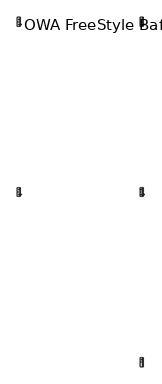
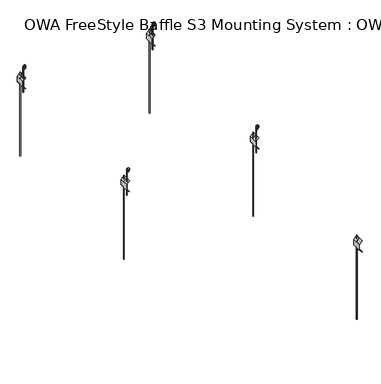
"""IFC4 building model written with IfcOpenShell, lengths in millimetres: proxy geometry, OWA FreeStyle Baffle S3 Mounting System : OWA FreeStyle Baffle S3 Mounting System."""

from ifc_helpers import new_model, si_unit, point, frame, frame_2d, origin, origin_with_axes, place, context, project, spatial, circle_curve, ellipse_curve, trimmed, segment, composite_curve, outline, extrude, faceted_brep, source, transform, mapped, element, save
from ifc_brep_helpers import plane_surface, cylinder_surface, revolved_surface, advanced_brep


def owa_freestyle_baffle_s3_mounting_system_owa_freestyle_baffle_da68aab5(model_context):
    return source(origin(), model_context, "Body", "SolidModel", [
        faceted_brep([(-119.638592, -2055.8333333, 417.5520255), (-120.3456988, -2055.8333333, 418.2591323), (-134.7807277, -2055.8333333, 403.8241035), (-134.7807277, -2055.8333333, 374.9956763), (-120.3456988, -2055.8333333, 360.5606475), (-119.638592, -2055.8333333, 361.2677543), (-133.7807277, -2055.8333333, 375.4098899), (-133.7807277, -2055.8333333, 403.4098899), (-119.638592, -2010.8333333, 417.5520255), (-133.7807277, -2010.8333333, 403.4098899), (-133.7807277, -2010.8333333, 375.4098899), (-119.638592, -2010.8333333, 361.2677543), (-120.3456988, -2010.8333333, 360.5606475), (-134.7807277, -2010.8333333, 374.9956763), (-134.7807277, -2010.8333333, 403.8241035), (-120.3456988, -2010.8333333, 418.2591323), (-119.638592, -2034.6333333, 417.5520255), (-120.3456988, -2034.6333333, 418.2591323), (-120.3456988, -2032.0333333, 418.2591323), (-119.638592, -2032.0333333, 417.5520255), (-134.7807277, -2034.6333333, 403.8241035), (-134.7807277, -2032.0333333, 403.8241035), (-134.7807277, -2032.0333333, 374.9956763), (-134.7807277, -2034.6333333, 374.9681948), (-120.3456988, -2034.6333333, 360.5606475), (-120.3456988, -2032.0333333, 360.5606475), (-119.638592, -2034.6333333, 361.2677543), (-119.638592, -2032.0333333, 361.2677543), (-133.7807277, -2034.6333333, 375.4098899), (-133.7807277, -2032.0333333, 375.4098899), (-133.7807277, -2032.0333333, 403.4098899), (-133.7807277, -2034.6333333, 403.4373715)], [[[0, 1, 2, 3, 4, 5, 6, 7]], [[8, 9, 10, 11, 12, 13, 14, 15]], [[1, 0, 16, 17]], [[8, 15, 18, 19]], [[2, 1, 17, 20]], [[15, 14, 21, 18]], [[3, 2, 20, 21, 14, 13, 22, 23]], [[4, 3, 23, 24]], [[13, 12, 25, 22]], [[5, 4, 24, 26]], [[12, 11, 27, 25]], [[6, 5, 26, 28]], [[11, 10, 29, 27]], [[7, 6, 28, 29, 10, 9, 30, 31]], [[0, 7, 31, 16]], [[9, 8, 19, 30]], [[29, 22, 25, 27]], [[21, 30, 19, 18]], [[23, 28, 26, 24]], [[31, 20, 17, 16]], [[22, 29, 28, 23]], [[30, 21, 20, 31]]]),
        extrude(outline(composite_curve([segment(trimmed(circle_curve(frame_2d((-126.5826228, -2020.8333333)), 1.5), [point((-126.5826228, -2019.3333333))], [point((-126.5826228, -2022.3333333))], False, "CARTESIAN"), True, "CONTINUOUS"), segment(trimmed(circle_curve(frame_2d((-126.5826228, -2020.8333333)), 1.5), [point((-126.5826228, -2022.3333333))], [point((-126.5826228, -2019.3333333))], False, "CARTESIAN"), True, "CONTINUOUS")], self_intersect=False)), origin_with_axes(), (0.0, 0.0, 1.0), 426.2503123),
        advanced_brep(
        [(-125.0826228, -2045.8333333, 339.3301206), (-128.0826228, -2045.8333333, 339.3301206), (-125.0826228, -2045.8333333, 469.8822039), (-128.0826228, -2045.8333333, 469.8822039), (-114.2638295, -2045.8333333, 469.8822039), (-117.2638295, -2045.8333333, 469.8822039), (-124.9635248, -2045.8333333, 454.4407062), (-122.7329392, -2045.8333333, 452.4345935), (-117.2638295, -2045.8333333, 466.7035654), (-114.2638295, -2045.8333333, 466.7035654), (-117.508527, -2045.8333333, 458.2435882), (-119.7391125, -2045.8333333, 460.249701)],
        [
            (0, 1, circle_curve(frame((-126.5826228, -2045.8333333, 339.3301206), z_axis=(0.0, 0.0, -1.0), x_axis=(-1.0, 0.0, 0.0)), 1.5)),
            (1, 0, circle_curve(frame((-126.5826228, -2045.8333333, 339.3301206), z_axis=(0.0, 0.0, -1.0), x_axis=(-1.0, 0.0, 0.0)), 1.5)),
            (0, 2),
            (2, 3, circle_curve(frame((-126.5826228, -2045.8333333, 469.8822039), z_axis=(0.0, 0.0, -1.0), x_axis=(-1.0, 0.0, 0.0)), 1.5)),
            (3, 1),
            (3, 2, circle_curve(frame((-126.5826228, -2045.8333333, 469.8822039), z_axis=(0.0, 0.0, -1.0), x_axis=(-1.0, 0.0, 0.0)), 1.5)),
            (4, 3, circle_curve(frame((-121.1732261, -2045.8333333, 469.8822039), z_axis=(0.0, -1.0, 0.0), x_axis=(-1.0, 0.0, 0.0)), 6.9093967)),
            (2, 5, circle_curve(frame((-121.1732261, -2045.8333333, 469.8822039), z_axis=(0.0, 1.0, 0.0), x_axis=(-1.0, 0.0, 0.0)), 3.9093967)),
            (5, 4, circle_curve(frame((-115.7638295, -2045.8333333, 469.8822039), z_axis=(0.0, 0.0, 1.0), x_axis=(1.0, 0.0, 0.0)), 1.5)),
            (4, 5, circle_curve(frame((-115.7638295, -2045.8333333, 469.8822039), z_axis=(0.0, 0.0, 1.0), x_axis=(1.0, 0.0, 0.0)), 1.5)),
            (6, 7, circle_curve(frame((-123.848232, -2045.8333333, 453.4376499), z_axis=(-0.6687042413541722, 0.0, -0.7435285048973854), x_axis=(0.7435285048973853, 0.0, -0.6687042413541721)), 1.5)),
            (7, 6, circle_curve(frame((-123.848232, -2045.8333333, 453.4376499), z_axis=(-0.6687042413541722, 0.0, -0.7435285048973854), x_axis=(0.7435285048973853, 0.0, -0.6687042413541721)), 1.5)),
            (5, 8),
            (8, 9, circle_curve(frame((-115.7638295, -2045.8333333, 466.7035654), z_axis=(0.0, 0.0, 1.0), x_axis=(1.0, 0.0, 0.0)), 1.5)),
            (9, 4),
            (9, 8, circle_curve(frame((-115.7638295, -2045.8333333, 466.7035654), z_axis=(0.0, 0.0, 1.0), x_axis=(1.0, 0.0, 0.0)), 1.5)),
            (10, 9, circle_curve(frame((-126.9151283, -2045.8333333, 466.7035654), z_axis=(0.0, -1.0, 0.0), x_axis=(1.0, 0.0, 0.0)), 12.6512988)),
            (8, 11, circle_curve(frame((-126.9151283, -2045.8333333, 466.7035654), z_axis=(0.0, 1.0, 0.0), x_axis=(1.0, 0.0, 0.0)), 9.6512988)),
            (11, 10, circle_curve(frame((-118.6238198, -2045.8333333, 459.2466446), z_axis=(0.6687042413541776, 0.0, 0.7435285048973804), x_axis=(0.7435285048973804, 0.0, -0.6687042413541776)), 1.5)),
            (10, 11, circle_curve(frame((-118.6238198, -2045.8333333, 459.2466446), z_axis=(0.6687042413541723, 0.0, 0.7435285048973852), x_axis=(0.7435285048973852, 0.0, -0.6687042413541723)), 1.5)),
            (11, 6),
            (7, 10),
        ],
        [
            plane_surface(frame((-126.5826228, -2045.8333333, 339.3301206), z_axis=(0.0, 0.0, -1.0), x_axis=(0.0, -1.0, 0.0))),
            cylinder_surface(frame((-126.5826228, -2045.8333333, 339.3301206), z_axis=(0.0, 0.0, -1.0), x_axis=(-1.0, 0.0, 0.0)), 1.5),
            revolved_surface(trimmed(ellipse_curve(frame((-126.5826228, -2045.8333333, 469.8822039), z_axis=(0.0, 0.0, -1.0), x_axis=(-1.0, 0.0, 0.0)), 1.5, 1.5), [point((-125.0826228, -2045.8333333, 469.8822039))], [point((-128.0826228, -2045.8333333, 469.8822039))], True, "CARTESIAN"), (-121.1732261, -2045.8333333, 469.8822039), (0.0, 1.0, 0.0)),
            revolved_surface(trimmed(ellipse_curve(frame((-126.5826228, -2045.8333333, 469.8822039), z_axis=(0.0, 0.0, -1.0), x_axis=(-1.0, 0.0, 0.0)), 1.5, 1.5), [point((-128.0826228, -2045.8333333, 469.8822039))], [point((-125.0826228, -2045.8333333, 469.8822039))], True, "CARTESIAN"), (-121.1732261, -2045.8333333, 469.8822039), (0.0, 1.0, 0.0)),
            plane_surface(frame((-123.848232, -2045.8333333, 453.4376499), z_axis=(-0.6687042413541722, 0.0, -0.7435285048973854), x_axis=(0.0, -1.0, 0.0))),
            cylinder_surface(frame((-115.7638295, -2045.8333333, 469.8822039), z_axis=(0.0, 0.0, 1.0), x_axis=(1.0, 0.0, 0.0)), 1.5),
            revolved_surface(trimmed(ellipse_curve(frame((-115.7638295, -2045.8333333, 466.7035654), z_axis=(0.0, 0.0, 1.0), x_axis=(1.0, 0.0, 0.0)), 1.5, 1.5), [point((-117.2638295, -2045.8333333, 466.7035654))], [point((-114.2638295, -2045.8333333, 466.7035654))], True, "CARTESIAN"), (-126.9151283, -2045.8333333, 466.7035654), (0.0, 1.0, 0.0)),
            revolved_surface(trimmed(ellipse_curve(frame((-115.7638295, -2045.8333333, 466.7035654), z_axis=(0.0, 0.0, 1.0), x_axis=(1.0, 0.0, 0.0)), 1.5, 1.5), [point((-114.2638295, -2045.8333333, 466.7035654))], [point((-117.2638295, -2045.8333333, 466.7035654))], True, "CARTESIAN"), (-126.9151283, -2045.8333333, 466.7035654), (0.0, 1.0, 0.0)),
            cylinder_surface(frame((-118.6238198, -2045.8333333, 459.2466446), z_axis=(0.6687042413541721, 0.0, 0.7435285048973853), x_axis=(0.7435285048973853, 0.0, -0.6687042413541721)), 1.5),
        ],
        [
            (0, [[1, 2]]),
            (1, [[-1, 3, 4, 5]]),
            (1, [[-2, -5, 6, -3]]),
            (2, [[7, -4, 8, 9]]),
            (3, [[-8, -6, -7, 10]]),
            (4, [[11, 12]]),
            (5, [[-9, 13, 14, 15]]),
            (5, [[-10, -15, 16, -13]]),
            (6, [[17, -14, 18, 19]]),
            (7, [[-18, -16, -17, 20]]),
            (8, [[-19, 21, -12, 22]]),
            (8, [[-20, -22, -11, -21]]),
        ],
    ),
        advanced_brep(
        [(-751.5162765, -2019.3333333, 426.2503123), (-751.5162765, -2022.3333333, 426.2503123), (-751.5162765, -2019.3333333, 0.0), (-751.5162765, -2022.3333333, 0.0), (-751.5162765, -2019.3333333, 412.0222083), (-751.5162765, -2022.3333333, 412.0222083), (-751.5162765, -2022.3333333, 366.7975715), (-751.5162765, -2019.3333333, 366.7975715), (-751.5162765, -2019.3333333, 410.6079948), (-751.5162765, -2019.3333333, 368.211785), (-751.5162765, -2022.3333333, 368.211785), (-751.5162765, -2022.3333333, 410.6079948), (-750.0162765, -2045.8333333, 339.3301206), (-753.0162765, -2045.8333333, 339.3301206), (-750.0162765, -2045.8333333, 365.2975715), (-753.0162765, -2045.8333333, 368.2975715), (-750.0162765, -2045.8333333, 469.8822039), (-753.0162765, -2045.8333333, 469.8822039), (-753.0162765, -2045.8333333, 410.5222083), (-750.0162765, -2045.8333333, 413.5222083), (-750.0162765, -2045.8333333, 366.711785), (-750.0162765, -2045.8333333, 412.1079948), (-753.0162765, -2045.8333333, 409.1079948), (-753.0162765, -2045.8333333, 369.711785), (-742.1974832, -2045.8333333, 469.8822039), (-739.1974832, -2045.8333333, 469.8822039), (-749.8971784, -2045.8333333, 454.4407062), (-747.6665929, -2045.8333333, 452.4345935), (-742.1974832, -2045.8333333, 466.7035654), (-739.1974832, -2045.8333333, 466.7035654), (-744.6727662, -2045.8333333, 460.249701), (-742.4421807, -2045.8333333, 458.2435882), (-744.5722457, -2055.8333333, 417.5520255), (-745.2793525, -2055.8333333, 418.2591323), (-759.7143814, -2055.8333333, 403.8241035), (-759.7143814, -2055.8333333, 374.9956763), (-745.2793525, -2055.8333333, 360.5606475), (-744.5722457, -2055.8333333, 361.2677543), (-758.7143814, -2055.8333333, 375.4098899), (-758.7143814, -2055.8333333, 403.4098899), (-744.5722457, -2010.8333333, 417.5520255), (-758.7143814, -2010.8333333, 403.4098899), (-758.7143814, -2010.8333333, 375.4098899), (-744.5722457, -2010.8333333, 361.2677543), (-745.2793525, -2010.8333333, 360.5606475), (-759.7143814, -2010.8333333, 374.9956763), (-759.7143814, -2010.8333333, 403.8241035), (-745.2793525, -2010.8333333, 418.2591323), (-744.5722457, -2034.6333333, 417.5520255), (-745.2793525, -2034.6333333, 418.2591323), (-745.2793525, -2032.0333333, 418.2591323), (-744.5722457, -2032.0333333, 417.5520255), (-759.7143814, -2034.6333333, 403.8241035), (-759.7143814, -2032.0333333, 403.8241035), (-759.7143814, -2032.0333333, 374.9956763), (-759.7143814, -2034.6333333, 374.9956763), (-745.2793525, -2034.6333333, 360.5606475), (-745.2793525, -2032.0333333, 360.5606475), (-744.5722457, -2034.6333333, 361.2677543), (-744.5722457, -2032.0333333, 361.2677543), (-758.7143814, -2034.6333333, 375.4098899), (-758.7143814, -2032.0333333, 375.4098899), (-758.7143814, -2032.0333333, 403.4098899), (-758.7143814, -2034.6333333, 403.4098899)],
        [
            (0, 1, circle_curve(frame((-751.5162765, -2020.8333333, 426.2503123), z_axis=(0.0, 0.0, 1.0), x_axis=(0.0, -1.0, 0.0)), 1.5)),
            (1, 0, circle_curve(frame((-751.5162765, -2020.8333333, 426.2503123), z_axis=(0.0, 0.0, 1.0), x_axis=(0.0, -1.0, 0.0)), 1.5)),
            (2, 3, circle_curve(frame((-751.5162765, -2020.8333333, 0.0), z_axis=(0.0, 0.0, -1.0), x_axis=(0.0, -1.0, 0.0)), 1.5)),
            (3, 2, circle_curve(frame((-751.5162765, -2020.8333333, 0.0), z_axis=(0.0, 0.0, -1.0), x_axis=(0.0, -1.0, 0.0)), 1.5)),
            (0, 4),
            (4, 5, ellipse_curve(frame((-751.5162765, -2020.8333333, 412.0222083), z_axis=(-0.7071067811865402, 0.0, 0.7071067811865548), x_axis=(0.7071067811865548, 0.0, 0.7071067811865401)), 2.1213203, 1.5)),
            (5, 1),
            (3, 6),
            (6, 7, ellipse_curve(frame((-751.5162765, -2020.8333333, 366.7975715), z_axis=(-0.7071067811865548, 0.0, -0.7071067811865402), x_axis=(-0.7071067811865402, 0.0, 0.7071067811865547)), 2.1213203, 1.5)),
            (7, 2),
            (8, 9),
            (9, 10, ellipse_curve(frame((-751.5162765, -2020.8333333, 368.211785), z_axis=(0.7071067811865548, 0.0, 0.7071067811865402), x_axis=(-0.7071067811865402, 0.0, 0.7071067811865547)), 2.1213203, 1.5)),
            (10, 11),
            (11, 8, ellipse_curve(frame((-751.5162765, -2020.8333333, 410.6079948), z_axis=(0.7071067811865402, 0.0, -0.7071067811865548), x_axis=(0.7071067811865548, 0.0, 0.7071067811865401)), 2.1213203, 1.5)),
            (5, 4, ellipse_curve(frame((-751.5162765, -2020.8333333, 412.0222083), z_axis=(-0.7071067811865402, 0.0, 0.7071067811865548), x_axis=(0.7071067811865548, 0.0, 0.7071067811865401)), 2.1213203, 1.5)),
            (7, 6, ellipse_curve(frame((-751.5162765, -2020.8333333, 366.7975715), z_axis=(-0.7071067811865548, 0.0, -0.7071067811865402), x_axis=(-0.7071067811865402, 0.0, 0.7071067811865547)), 2.1213203, 1.5)),
            (8, 11, ellipse_curve(frame((-751.5162765, -2020.8333333, 410.6079948), z_axis=(0.7071067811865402, 0.0, -0.7071067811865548), x_axis=(0.7071067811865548, 0.0, 0.7071067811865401)), 2.1213203, 1.5)),
            (10, 9, ellipse_curve(frame((-751.5162765, -2020.8333333, 368.211785), z_axis=(0.7071067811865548, 0.0, 0.7071067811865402), x_axis=(-0.7071067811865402, 0.0, 0.7071067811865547)), 2.1213203, 1.5)),
            (12, 13, circle_curve(frame((-751.5162765, -2045.8333333, 339.3301206), z_axis=(0.0, 0.0, -1.0), x_axis=(-1.0, 0.0, 0.0)), 1.5)),
            (13, 12, circle_curve(frame((-751.5162765, -2045.8333333, 339.3301206), z_axis=(0.0, 0.0, -1.0), x_axis=(-1.0, 0.0, 0.0)), 1.5)),
            (12, 14),
            (14, 15, ellipse_curve(frame((-751.5162765, -2045.8333333, 366.7975715), z_axis=(-0.7071067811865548, 0.0, -0.7071067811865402), x_axis=(0.7071067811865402, 0.0, -0.7071067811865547)), 2.1213203, 1.5)),
            (15, 13),
            (16, 17, circle_curve(frame((-751.5162765, -2045.8333333, 469.8822039), z_axis=(0.0, 0.0, -1.0), x_axis=(-1.0, 0.0, 0.0)), 1.5)),
            (17, 18),
            (18, 19, ellipse_curve(frame((-751.5162765, -2045.8333333, 412.0222083), z_axis=(-0.7071067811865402, 0.0, 0.7071067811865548), x_axis=(-0.7071067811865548, 0.0, -0.7071067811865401)), 2.1213203, 1.5)),
            (19, 16),
            (20, 21),
            (21, 22, ellipse_curve(frame((-751.5162765, -2045.8333333, 410.6079948), z_axis=(0.7071067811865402, 0.0, -0.7071067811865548), x_axis=(-0.7071067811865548, 0.0, -0.7071067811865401)), 2.1213203, 1.5)),
            (22, 23),
            (23, 20, ellipse_curve(frame((-751.5162765, -2045.8333333, 368.211785), z_axis=(0.7071067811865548, 0.0, 0.7071067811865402), x_axis=(0.7071067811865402, 0.0, -0.7071067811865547)), 2.1213203, 1.5)),
            (15, 14, ellipse_curve(frame((-751.5162765, -2045.8333333, 366.7975715), z_axis=(-0.7071067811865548, 0.0, -0.7071067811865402), x_axis=(0.7071067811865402, 0.0, -0.7071067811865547)), 2.1213203, 1.5)),
            (20, 23, ellipse_curve(frame((-751.5162765, -2045.8333333, 368.211785), z_axis=(0.7071067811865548, 0.0, 0.7071067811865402), x_axis=(0.7071067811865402, 0.0, -0.7071067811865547)), 2.1213203, 1.5)),
            (22, 21, ellipse_curve(frame((-751.5162765, -2045.8333333, 410.6079948), z_axis=(0.7071067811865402, 0.0, -0.7071067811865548), x_axis=(-0.7071067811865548, 0.0, -0.7071067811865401)), 2.1213203, 1.5)),
            (17, 16, circle_curve(frame((-751.5162765, -2045.8333333, 469.8822039), z_axis=(0.0, 0.0, -1.0), x_axis=(-1.0, 0.0, 0.0)), 1.5)),
            (19, 18, ellipse_curve(frame((-751.5162765, -2045.8333333, 412.0222083), z_axis=(-0.7071067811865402, 0.0, 0.7071067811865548), x_axis=(-0.7071067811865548, 0.0, -0.7071067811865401)), 2.1213203, 1.5)),
            (16, 24, circle_curve(frame((-746.1068798, -2045.8333333, 469.8822039), z_axis=(0.0, 1.0, 0.0), x_axis=(-1.0, 0.0, 0.0)), 3.9093967)),
            (24, 25, circle_curve(frame((-740.6974832, -2045.8333333, 469.8822039), z_axis=(0.0, 0.0, 1.0), x_axis=(1.0, 0.0, 0.0)), 1.5)),
            (25, 17, circle_curve(frame((-746.1068798, -2045.8333333, 469.8822039), z_axis=(0.0, -1.0, 0.0), x_axis=(-1.0, 0.0, 0.0)), 6.9093967)),
            (25, 24, circle_curve(frame((-740.6974832, -2045.8333333, 469.8822039), z_axis=(0.0, 0.0, 1.0), x_axis=(1.0, 0.0, 0.0)), 1.5)),
            (26, 27, circle_curve(frame((-748.7818857, -2045.8333333, 453.4376499), z_axis=(-0.6687042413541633, 0.0, -0.7435285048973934), x_axis=(0.7435285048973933, 0.0, -0.6687042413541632)), 1.5)),
            (27, 26, circle_curve(frame((-748.7818857, -2045.8333333, 453.4376499), z_axis=(-0.6687042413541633, 0.0, -0.7435285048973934), x_axis=(0.7435285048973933, 0.0, -0.6687042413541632)), 1.5)),
            (24, 28),
            (28, 29, circle_curve(frame((-740.6974832, -2045.8333333, 466.7035654), z_axis=(0.0, 0.0, 1.0), x_axis=(1.0, 0.0, 0.0)), 1.5)),
            (29, 25),
            (29, 28, circle_curve(frame((-740.6974832, -2045.8333333, 466.7035654), z_axis=(0.0, 0.0, 1.0), x_axis=(1.0, 0.0, 0.0)), 1.5)),
            (28, 30, circle_curve(frame((-751.8487819, -2045.8333333, 466.7035654), z_axis=(0.0, 1.0, 0.0), x_axis=(1.0, 0.0, 0.0)), 9.6512988)),
            (30, 31, circle_curve(frame((-743.5574734, -2045.8333333, 459.2466446), z_axis=(0.668704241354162, 0.0, 0.7435285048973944), x_axis=(0.7435285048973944, 0.0, -0.668704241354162)), 1.5)),
            (31, 29, circle_curve(frame((-751.8487819, -2045.8333333, 466.7035654), z_axis=(0.0, -1.0, 0.0), x_axis=(1.0, 0.0, 0.0)), 12.6512988)),
            (31, 30, circle_curve(frame((-743.5574734, -2045.8333333, 459.2466446), z_axis=(0.6687042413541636, 0.0, 0.743528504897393), x_axis=(0.743528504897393, 0.0, -0.6687042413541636)), 1.5)),
            (27, 31),
            (30, 26),
            (32, 33),
            (33, 34),
            (34, 35),
            (35, 36),
            (36, 37),
            (37, 38),
            (38, 39),
            (39, 32),
            (40, 41),
            (41, 42),
            (42, 43),
            (43, 44),
            (44, 45),
            (45, 46),
            (46, 47),
            (47, 40),
            (32, 48),
            (48, 49),
            (49, 33),
            (47, 50),
            (50, 51),
            (51, 40),
            (49, 52),
            (52, 34),
            (46, 53),
            (53, 50),
            (52, 53),
            (45, 54),
            (54, 55),
            (55, 35),
            (55, 56),
            (56, 36),
            (44, 57),
            (57, 54),
            (56, 58),
            (58, 37),
            (43, 59),
            (59, 57),
            (58, 60),
            (60, 38),
            (42, 61),
            (61, 59),
            (60, 61),
            (41, 62),
            (62, 63),
            (63, 39),
            (63, 48),
            (51, 62),
            (61, 54),
            (53, 62),
            (55, 60),
            (63, 52),
        ],
        [
            plane_surface(frame((-751.5162765, -2020.8333333, 426.2503123), z_axis=(0.0, 0.0, 1.0), x_axis=(0.0, -1.0, 0.0))),
            plane_surface(frame((-751.5162765, -2020.8333333, 0.0), z_axis=(0.0, 0.0, -1.0), x_axis=(0.0, -1.0, 0.0))),
            cylinder_surface(frame((-751.5162765, -2020.8333333, 426.2503123), z_axis=(0.0, 0.0, 1.0), x_axis=(0.0, -1.0, 0.0)), 1.5),
            plane_surface(frame((-751.5162765, -2045.8333333, 339.3301206), z_axis=(0.0, 0.0, -1.0), x_axis=(0.0, -1.0, 0.0))),
            cylinder_surface(frame((-751.5162765, -2045.8333333, 339.3301206), z_axis=(0.0, 0.0, -1.0), x_axis=(-1.0, 0.0, 0.0)), 1.5),
            revolved_surface(trimmed(ellipse_curve(frame((-751.5162765, -2045.8333333, 469.8822039), z_axis=(0.0, 0.0, -1.0), x_axis=(-1.0, 0.0, 0.0)), 1.5, 1.5), [point((-750.0162765, -2045.8333333, 469.8822039))], [point((-753.0162765, -2045.8333333, 469.8822039))], True, "CARTESIAN"), (-746.1068798, -2045.8333333, 469.8822039), (0.0, 1.0, 0.0)),
            revolved_surface(trimmed(ellipse_curve(frame((-751.5162765, -2045.8333333, 469.8822039), z_axis=(0.0, 0.0, -1.0), x_axis=(-1.0, 0.0, 0.0)), 1.5, 1.5), [point((-753.0162765, -2045.8333333, 469.8822039))], [point((-750.0162765, -2045.8333333, 469.8822039))], True, "CARTESIAN"), (-746.1068798, -2045.8333333, 469.8822039), (0.0, 1.0, 0.0)),
            plane_surface(frame((-748.7818857, -2045.8333333, 453.4376499), z_axis=(-0.6687042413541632, 0.0, -0.7435285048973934), x_axis=(0.0, -1.0, 0.0))),
            cylinder_surface(frame((-740.6974832, -2045.8333333, 469.8822039), z_axis=(0.0, 0.0, 1.0), x_axis=(1.0, 0.0, 0.0)), 1.5),
            revolved_surface(trimmed(ellipse_curve(frame((-740.6974832, -2045.8333333, 466.7035654), z_axis=(0.0, 0.0, 1.0), x_axis=(1.0, 0.0, 0.0)), 1.5, 1.5), [point((-742.1974832, -2045.8333333, 466.7035654))], [point((-739.1974832, -2045.8333333, 466.7035654))], True, "CARTESIAN"), (-751.8487819, -2045.8333333, 466.7035654), (0.0, 1.0, 0.0)),
            revolved_surface(trimmed(ellipse_curve(frame((-740.6974832, -2045.8333333, 466.7035654), z_axis=(0.0, 0.0, 1.0), x_axis=(1.0, 0.0, 0.0)), 1.5, 1.5), [point((-739.1974832, -2045.8333333, 466.7035654))], [point((-742.1974832, -2045.8333333, 466.7035654))], True, "CARTESIAN"), (-751.8487819, -2045.8333333, 466.7035654), (0.0, 1.0, 0.0)),
            cylinder_surface(frame((-743.5574734, -2045.8333333, 459.2466446), z_axis=(0.6687042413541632, 0.0, 0.7435285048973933), x_axis=(0.7435285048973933, 0.0, -0.6687042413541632)), 1.5),
            plane_surface(frame((-744.5722457, -2055.8333333, 361.2677543), z_axis=(0.0, -1.0, 0.0), x_axis=(0.0, 0.0, 1.0))),
            plane_surface(frame((-744.5722457, -2010.8333333, 361.2677543), z_axis=(0.0, 1.0, 0.0), x_axis=(0.0, 0.0, 1.0))),
            plane_surface(frame((-744.5722457, -2055.8333333, 417.5520255), z_axis=(0.707106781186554, 0.0, 0.7071067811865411), x_axis=(0.0, 1.0, 0.0))),
            plane_surface(frame((-745.2793525, -2055.8333333, 418.2591323), z_axis=(-0.7071067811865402, 0.0, 0.7071067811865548), x_axis=(0.0, 1.0, 0.0))),
            plane_surface(frame((-759.7143814, -2055.8333333, 403.8241035), z_axis=(-1.0, 0.0, 0.0), x_axis=(0.0, 1.0, 0.0))),
            plane_surface(frame((-759.7143814, -2055.8333333, 374.9956763), z_axis=(-0.7071067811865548, 0.0, -0.7071067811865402), x_axis=(0.0, 1.0, 0.0))),
            plane_surface(frame((-745.2793525, -2055.8333333, 360.5606475), z_axis=(0.7071067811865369, 0.0, -0.7071067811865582), x_axis=(0.0, 1.0, 0.0))),
            plane_surface(frame((-744.5722457, -2055.8333333, 361.2677543), z_axis=(0.7071067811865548, 0.0, 0.7071067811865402), x_axis=(0.0, 1.0, 0.0))),
            plane_surface(frame((-758.7143814, -2055.8333333, 375.4098899), z_axis=(1.0, 0.0, 0.0), x_axis=(0.0, 1.0, 0.0))),
            plane_surface(frame((-758.7143814, -2055.8333333, 403.4098899), z_axis=(0.7071067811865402, 0.0, -0.7071067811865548), x_axis=(0.0, 1.0, 0.0))),
            plane_surface(frame((-758.7143814, -2032.0333333, 375.4098899), z_axis=(0.0, -1.0000000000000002, 0.0), x_axis=(0.9238795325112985, 0.0, 0.3826834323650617))),
            plane_surface(frame((-758.7143814, -2034.6333333, 375.4098899), z_axis=(0.0, 1.0000000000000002, 0.0), x_axis=(-0.9238795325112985, 0.0, -0.3826834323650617))),
            plane_surface(frame((-759.7143814, -2032.0333333, 374.9956763), z_axis=(0.3826834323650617, 0.0, -0.9238795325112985), x_axis=(0.0, -1.0, 0.0))),
            plane_surface(frame((-758.7143814, -2032.0333333, 403.4098899), z_axis=(0.3826834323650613, 0.0, 0.9238795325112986), x_axis=(0.0, -1.0, 0.0))),
        ],
        [
            (0, [[1, 2]]),
            (1, [[3, 4]]),
            (2, [[-1, 5, 6, 7]]),
            (2, [[-4, 8, 9, 10]]),
            (2, [[11, 12, 13, 14]]),
            (2, [[-2, -7, 15, -5]]),
            (2, [[-3, -10, 16, -8]]),
            (2, [[-11, 17, -13, 18]]),
            (3, [[19, 20]]),
            (4, [[-19, 21, 22, 23]]),
            (4, [[24, 25, 26, 27]]),
            (4, [[28, 29, 30, 31]]),
            (4, [[-20, -23, 32, -21]]),
            (4, [[-28, 33, -30, 34]]),
            (4, [[35, -27, 36, -25]]),
            (5, [[-24, 37, 38, 39]]),
            (6, [[-35, -39, 40, -37]]),
            (7, [[41, 42]]),
            (8, [[-38, 43, 44, 45]]),
            (8, [[-40, -45, 46, -43]]),
            (9, [[-44, 47, 48, 49]]),
            (10, [[-46, -49, 50, -47]]),
            (11, [[-42, 51, -48, 52]]),
            (11, [[-41, -52, -50, -51]]),
            (12, [[53, 54, 55, 56, 57, 58, 59, 60]]),
            (13, [[61, 62, 63, 64, 65, 66, 67, 68]]),
            (14, [[-53, 69, 70, 71]]),
            (14, [[-68, 72, 73, 74]]),
            (15, [[-54, -71, 75, 76], [-26, -36]]),
            (15, [[-67, 77, 78, -72], [-6, -15]]),
            (16, [[-55, -76, 79, -77, -66, 80, 81, 82]]),
            (17, [[-56, -82, 83, 84], [-22, -32]]),
            (17, [[-65, 85, 86, -80], [-9, -16]]),
            (18, [[-57, -84, 87, 88]]),
            (18, [[-64, 89, 90, -85]]),
            (19, [[-58, -88, 91, 92], [-31, -33]]),
            (19, [[-63, 93, 94, -89], [-12, -18]]),
            (20, [[-59, -92, 95, -93, -62, 96, 97, 98]]),
            (21, [[-60, -98, 99, -69], [-29, -34]]),
            (21, [[-61, -74, 100, -96], [-14, -17]]),
            (22, [[101, -86, -90, -94]]),
            (22, [[102, -100, -73, -78]]),
            (23, [[103, -91, -87, -83]]),
            (23, [[104, -75, -70, -99]]),
            (24, [[-101, -95, -103, -81]]),
            (25, [[-102, -79, -104, -97]]),
        ],
    ),
        faceted_brep([(-119.638592, -1189.1666667, 417.5520255), (-120.3456988, -1189.1666667, 418.2591323), (-134.7807277, -1189.1666667, 403.8241035), (-134.7807277, -1189.1666667, 374.9956763), (-120.3456988, -1189.1666667, 360.5606475), (-119.638592, -1189.1666667, 361.2677543), (-133.7807277, -1189.1666667, 375.4098899), (-133.7807277, -1189.1666667, 403.4098899), (-119.638592, -1144.1666667, 417.5520255), (-133.7807277, -1144.1666667, 403.4098899), (-133.7807277, -1144.1666667, 375.4098899), (-119.638592, -1144.1666667, 361.2677543), (-120.3456988, -1144.1666667, 360.5606475), (-134.7807277, -1144.1666667, 374.9956763), (-134.7807277, -1144.1666667, 403.8241035), (-120.3456988, -1144.1666667, 418.2591323), (-119.638592, -1167.9666667, 417.5520255), (-120.3456988, -1167.9666667, 418.2591323), (-120.3456988, -1165.3666667, 418.2591323), (-119.638592, -1165.3666667, 417.5520255), (-134.7807277, -1167.9666667, 403.8241035), (-134.7807277, -1165.3666667, 403.8241035), (-134.7807277, -1165.3666667, 374.9956763), (-134.7807277, -1167.9666667, 374.9681948), (-120.3456988, -1167.9666667, 360.5606475), (-120.3456988, -1165.3666667, 360.5606475), (-119.638592, -1167.9666667, 361.2677543), (-119.638592, -1165.3666667, 361.2677543), (-133.7807277, -1167.9666667, 375.4098899), (-133.7807277, -1165.3666667, 375.4098899), (-133.7807277, -1165.3666667, 403.4098899), (-133.7807277, -1167.9666667, 403.4373715)], [[[0, 1, 2, 3, 4, 5, 6, 7]], [[8, 9, 10, 11, 12, 13, 14, 15]], [[1, 0, 16, 17]], [[8, 15, 18, 19]], [[2, 1, 17, 20]], [[15, 14, 21, 18]], [[3, 2, 20, 21, 14, 13, 22, 23]], [[4, 3, 23, 24]], [[13, 12, 25, 22]], [[5, 4, 24, 26]], [[12, 11, 27, 25]], [[6, 5, 26, 28]], [[11, 10, 29, 27]], [[7, 6, 28, 29, 10, 9, 30, 31]], [[0, 7, 31, 16]], [[9, 8, 19, 30]], [[29, 22, 25, 27]], [[21, 30, 19, 18]], [[23, 28, 26, 24]], [[31, 20, 17, 16]], [[22, 29, 28, 23]], [[30, 21, 20, 31]]]),
        extrude(outline(composite_curve([segment(trimmed(circle_curve(frame_2d((-126.5826228, -1154.1666667)), 1.5), [point((-126.5826228, -1152.6666667))], [point((-126.5826228, -1155.6666667))], False, "CARTESIAN"), True, "CONTINUOUS"), segment(trimmed(circle_curve(frame_2d((-126.5826228, -1154.1666667)), 1.5), [point((-126.5826228, -1155.6666667))], [point((-126.5826228, -1152.6666667))], False, "CARTESIAN"), True, "CONTINUOUS")], self_intersect=False)), origin_with_axes(), (0.0, 0.0, 1.0), 426.2503123),
        advanced_brep(
        [(-125.0826228, -1179.1666667, 339.3301206), (-128.0826228, -1179.1666667, 339.3301206), (-125.0826228, -1179.1666667, 469.8822039), (-128.0826228, -1179.1666667, 469.8822039), (-114.2638295, -1179.1666667, 469.8822039), (-117.2638295, -1179.1666667, 469.8822039), (-124.9635248, -1179.1666667, 454.4407062), (-122.7329392, -1179.1666667, 452.4345935), (-117.2638295, -1179.1666667, 466.7035654), (-114.2638295, -1179.1666667, 466.7035654), (-117.508527, -1179.1666667, 458.2435882), (-119.7391125, -1179.1666667, 460.249701)],
        [
            (0, 1, circle_curve(frame((-126.5826228, -1179.1666667, 339.3301206), z_axis=(0.0, 0.0, -1.0), x_axis=(-1.0, 0.0, 0.0)), 1.5)),
            (1, 0, circle_curve(frame((-126.5826228, -1179.1666667, 339.3301206), z_axis=(0.0, 0.0, -1.0), x_axis=(-1.0, 0.0, 0.0)), 1.5)),
            (0, 2),
            (2, 3, circle_curve(frame((-126.5826228, -1179.1666667, 469.8822039), z_axis=(0.0, 0.0, -1.0), x_axis=(-1.0, 0.0, 0.0)), 1.5)),
            (3, 1),
            (3, 2, circle_curve(frame((-126.5826228, -1179.1666667, 469.8822039), z_axis=(0.0, 0.0, -1.0), x_axis=(-1.0, 0.0, 0.0)), 1.5)),
            (4, 3, circle_curve(frame((-121.1732261, -1179.1666667, 469.8822039), z_axis=(0.0, -1.0, 0.0), x_axis=(-1.0, 0.0, 0.0)), 6.9093967)),
            (2, 5, circle_curve(frame((-121.1732261, -1179.1666667, 469.8822039), z_axis=(0.0, 1.0, 0.0), x_axis=(-1.0, 0.0, 0.0)), 3.9093967)),
            (5, 4, circle_curve(frame((-115.7638295, -1179.1666667, 469.8822039), z_axis=(0.0, 0.0, 1.0), x_axis=(1.0, 0.0, 0.0)), 1.5)),
            (4, 5, circle_curve(frame((-115.7638295, -1179.1666667, 469.8822039), z_axis=(0.0, 0.0, 1.0), x_axis=(1.0, 0.0, 0.0)), 1.5)),
            (6, 7, circle_curve(frame((-123.848232, -1179.1666667, 453.4376499), z_axis=(-0.6687042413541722, 0.0, -0.7435285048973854), x_axis=(0.7435285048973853, 0.0, -0.6687042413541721)), 1.5)),
            (7, 6, circle_curve(frame((-123.848232, -1179.1666667, 453.4376499), z_axis=(-0.6687042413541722, 0.0, -0.7435285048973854), x_axis=(0.7435285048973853, 0.0, -0.6687042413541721)), 1.5)),
            (5, 8),
            (8, 9, circle_curve(frame((-115.7638295, -1179.1666667, 466.7035654), z_axis=(0.0, 0.0, 1.0), x_axis=(1.0, 0.0, 0.0)), 1.5)),
            (9, 4),
            (9, 8, circle_curve(frame((-115.7638295, -1179.1666667, 466.7035654), z_axis=(0.0, 0.0, 1.0), x_axis=(1.0, 0.0, 0.0)), 1.5)),
            (10, 9, circle_curve(frame((-126.9151283, -1179.1666667, 466.7035654), z_axis=(0.0, -1.0, 0.0), x_axis=(1.0, 0.0, 0.0)), 12.6512988)),
            (8, 11, circle_curve(frame((-126.9151283, -1179.1666667, 466.7035654), z_axis=(0.0, 1.0, 0.0), x_axis=(1.0, 0.0, 0.0)), 9.6512988)),
            (11, 10, circle_curve(frame((-118.6238198, -1179.1666667, 459.2466446), z_axis=(0.6687042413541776, 0.0, 0.7435285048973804), x_axis=(0.7435285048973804, 0.0, -0.6687042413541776)), 1.5)),
            (10, 11, circle_curve(frame((-118.6238198, -1179.1666667, 459.2466446), z_axis=(0.6687042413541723, 0.0, 0.7435285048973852), x_axis=(0.7435285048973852, 0.0, -0.6687042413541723)), 1.5)),
            (11, 6),
            (7, 10),
        ],
        [
            plane_surface(frame((-126.5826228, -1179.1666667, 339.3301206), z_axis=(0.0, 0.0, -1.0), x_axis=(0.0, -1.0, 0.0))),
            cylinder_surface(frame((-126.5826228, -1179.1666667, 339.3301206), z_axis=(0.0, 0.0, -1.0), x_axis=(-1.0, 0.0, 0.0)), 1.5),
            revolved_surface(trimmed(ellipse_curve(frame((-126.5826228, -1179.1666667, 469.8822039), z_axis=(0.0, 0.0, -1.0), x_axis=(-1.0, 0.0, 0.0)), 1.5, 1.5), [point((-125.0826228, -1179.1666667, 469.8822039))], [point((-128.0826228, -1179.1666667, 469.8822039))], True, "CARTESIAN"), (-121.1732261, -1179.1666667, 469.8822039), (0.0, 1.0, 0.0)),
            revolved_surface(trimmed(ellipse_curve(frame((-126.5826228, -1179.1666667, 469.8822039), z_axis=(0.0, 0.0, -1.0), x_axis=(-1.0, 0.0, 0.0)), 1.5, 1.5), [point((-128.0826228, -1179.1666667, 469.8822039))], [point((-125.0826228, -1179.1666667, 469.8822039))], True, "CARTESIAN"), (-121.1732261, -1179.1666667, 469.8822039), (0.0, 1.0, 0.0)),
            plane_surface(frame((-123.848232, -1179.1666667, 453.4376499), z_axis=(-0.6687042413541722, 0.0, -0.7435285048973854), x_axis=(0.0, -1.0, 0.0))),
            cylinder_surface(frame((-115.7638295, -1179.1666667, 469.8822039), z_axis=(0.0, 0.0, 1.0), x_axis=(1.0, 0.0, 0.0)), 1.5),
            revolved_surface(trimmed(ellipse_curve(frame((-115.7638295, -1179.1666667, 466.7035654), z_axis=(0.0, 0.0, 1.0), x_axis=(1.0, 0.0, 0.0)), 1.5, 1.5), [point((-117.2638295, -1179.1666667, 466.7035654))], [point((-114.2638295, -1179.1666667, 466.7035654))], True, "CARTESIAN"), (-126.9151283, -1179.1666667, 466.7035654), (0.0, 1.0, 0.0)),
            revolved_surface(trimmed(ellipse_curve(frame((-115.7638295, -1179.1666667, 466.7035654), z_axis=(0.0, 0.0, 1.0), x_axis=(1.0, 0.0, 0.0)), 1.5, 1.5), [point((-114.2638295, -1179.1666667, 466.7035654))], [point((-117.2638295, -1179.1666667, 466.7035654))], True, "CARTESIAN"), (-126.9151283, -1179.1666667, 466.7035654), (0.0, 1.0, 0.0)),
            cylinder_surface(frame((-118.6238198, -1179.1666667, 459.2466446), z_axis=(0.6687042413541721, 0.0, 0.7435285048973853), x_axis=(0.7435285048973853, 0.0, -0.6687042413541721)), 1.5),
        ],
        [
            (0, [[1, 2]]),
            (1, [[-1, 3, 4, 5]]),
            (1, [[-2, -5, 6, -3]]),
            (2, [[7, -4, 8, 9]]),
            (3, [[-8, -6, -7, 10]]),
            (4, [[11, 12]]),
            (5, [[-9, 13, 14, 15]]),
            (5, [[-10, -15, 16, -13]]),
            (6, [[17, -14, 18, 19]]),
            (7, [[-18, -16, -17, 20]]),
            (8, [[-19, 21, -12, 22]]),
            (8, [[-20, -22, -11, -21]]),
        ],
    ),
        advanced_brep(
        [(-751.5162765, -1152.6666667, 426.2503123), (-751.5162765, -1155.6666667, 426.2503123), (-751.5162765, -1152.6666667, 0.0), (-751.5162765, -1155.6666667, 0.0), (-751.5162765, -1152.6666667, 412.0222083), (-751.5162765, -1155.6666667, 412.0222083), (-751.5162765, -1155.6666667, 366.7975715), (-751.5162765, -1152.6666667, 366.7975715), (-751.5162765, -1152.6666667, 410.6079948), (-751.5162765, -1152.6666667, 368.211785), (-751.5162765, -1155.6666667, 368.211785), (-751.5162765, -1155.6666667, 410.6079948), (-750.0162765, -1179.1666667, 339.3301206), (-753.0162765, -1179.1666667, 339.3301206), (-750.0162765, -1179.1666667, 365.2975715), (-753.0162765, -1179.1666667, 368.2975715), (-750.0162765, -1179.1666667, 469.8822039), (-753.0162765, -1179.1666667, 469.8822039), (-753.0162765, -1179.1666667, 410.5222083), (-750.0162765, -1179.1666667, 413.5222083), (-750.0162765, -1179.1666667, 366.711785), (-750.0162765, -1179.1666667, 412.1079948), (-753.0162765, -1179.1666667, 409.1079948), (-753.0162765, -1179.1666667, 369.711785), (-742.1974832, -1179.1666667, 469.8822039), (-739.1974832, -1179.1666667, 469.8822039), (-749.8971784, -1179.1666667, 454.4407062), (-747.6665929, -1179.1666667, 452.4345935), (-742.1974832, -1179.1666667, 466.7035654), (-739.1974832, -1179.1666667, 466.7035654), (-744.6727662, -1179.1666667, 460.249701), (-742.4421807, -1179.1666667, 458.2435882), (-744.5722457, -1189.1666667, 417.5520255), (-745.2793525, -1189.1666667, 418.2591323), (-759.7143814, -1189.1666667, 403.8241035), (-759.7143814, -1189.1666667, 374.9956763), (-745.2793525, -1189.1666667, 360.5606475), (-744.5722457, -1189.1666667, 361.2677543), (-758.7143814, -1189.1666667, 375.4098899), (-758.7143814, -1189.1666667, 403.4098899), (-744.5722457, -1144.1666667, 417.5520255), (-758.7143814, -1144.1666667, 403.4098899), (-758.7143814, -1144.1666667, 375.4098899), (-744.5722457, -1144.1666667, 361.2677543), (-745.2793525, -1144.1666667, 360.5606475), (-759.7143814, -1144.1666667, 374.9956763), (-759.7143814, -1144.1666667, 403.8241035), (-745.2793525, -1144.1666667, 418.2591323), (-744.5722457, -1167.9666667, 417.5520255), (-745.2793525, -1167.9666667, 418.2591323), (-745.2793525, -1165.3666667, 418.2591323), (-744.5722457, -1165.3666667, 417.5520255), (-759.7143814, -1167.9666667, 403.8241035), (-759.7143814, -1165.3666667, 403.8241035), (-759.7143814, -1165.3666667, 374.9956763), (-759.7143814, -1167.9666667, 374.9956763), (-745.2793525, -1167.9666667, 360.5606475), (-745.2793525, -1165.3666667, 360.5606475), (-744.5722457, -1167.9666667, 361.2677543), (-744.5722457, -1165.3666667, 361.2677543), (-758.7143814, -1167.9666667, 375.4098899), (-758.7143814, -1165.3666667, 375.4098899), (-758.7143814, -1165.3666667, 403.4098899), (-758.7143814, -1167.9666667, 403.4098899)],
        [
            (0, 1, circle_curve(frame((-751.5162765, -1154.1666667, 426.2503123), z_axis=(0.0, 0.0, 1.0), x_axis=(0.0, -1.0, 0.0)), 1.5)),
            (1, 0, circle_curve(frame((-751.5162765, -1154.1666667, 426.2503123), z_axis=(0.0, 0.0, 1.0), x_axis=(0.0, -1.0, 0.0)), 1.5)),
            (2, 3, circle_curve(frame((-751.5162765, -1154.1666667, 0.0), z_axis=(0.0, 0.0, -1.0), x_axis=(0.0, -1.0, 0.0)), 1.5)),
            (3, 2, circle_curve(frame((-751.5162765, -1154.1666667, 0.0), z_axis=(0.0, 0.0, -1.0), x_axis=(0.0, -1.0, 0.0)), 1.5)),
            (0, 4),
            (4, 5, ellipse_curve(frame((-751.5162765, -1154.1666667, 412.0222083), z_axis=(-0.7071067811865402, 0.0, 0.7071067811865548), x_axis=(0.7071067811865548, 0.0, 0.7071067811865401)), 2.1213203, 1.5)),
            (5, 1),
            (3, 6),
            (6, 7, ellipse_curve(frame((-751.5162765, -1154.1666667, 366.7975715), z_axis=(-0.7071067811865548, 0.0, -0.7071067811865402), x_axis=(-0.7071067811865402, 0.0, 0.7071067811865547)), 2.1213203, 1.5)),
            (7, 2),
            (8, 9),
            (9, 10, ellipse_curve(frame((-751.5162765, -1154.1666667, 368.211785), z_axis=(0.7071067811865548, 0.0, 0.7071067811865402), x_axis=(-0.7071067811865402, 0.0, 0.7071067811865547)), 2.1213203, 1.5)),
            (10, 11),
            (11, 8, ellipse_curve(frame((-751.5162765, -1154.1666667, 410.6079948), z_axis=(0.7071067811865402, 0.0, -0.7071067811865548), x_axis=(0.7071067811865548, 0.0, 0.7071067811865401)), 2.1213203, 1.5)),
            (5, 4, ellipse_curve(frame((-751.5162765, -1154.1666667, 412.0222083), z_axis=(-0.7071067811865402, 0.0, 0.7071067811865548), x_axis=(0.7071067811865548, 0.0, 0.7071067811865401)), 2.1213203, 1.5)),
            (7, 6, ellipse_curve(frame((-751.5162765, -1154.1666667, 366.7975715), z_axis=(-0.7071067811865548, 0.0, -0.7071067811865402), x_axis=(-0.7071067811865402, 0.0, 0.7071067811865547)), 2.1213203, 1.5)),
            (8, 11, ellipse_curve(frame((-751.5162765, -1154.1666667, 410.6079948), z_axis=(0.7071067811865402, 0.0, -0.7071067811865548), x_axis=(0.7071067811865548, 0.0, 0.7071067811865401)), 2.1213203, 1.5)),
            (10, 9, ellipse_curve(frame((-751.5162765, -1154.1666667, 368.211785), z_axis=(0.7071067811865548, 0.0, 0.7071067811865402), x_axis=(-0.7071067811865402, 0.0, 0.7071067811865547)), 2.1213203, 1.5)),
            (12, 13, circle_curve(frame((-751.5162765, -1179.1666667, 339.3301206), z_axis=(0.0, 0.0, -1.0), x_axis=(-1.0, 0.0, 0.0)), 1.5)),
            (13, 12, circle_curve(frame((-751.5162765, -1179.1666667, 339.3301206), z_axis=(0.0, 0.0, -1.0), x_axis=(-1.0, 0.0, 0.0)), 1.5)),
            (12, 14),
            (14, 15, ellipse_curve(frame((-751.5162765, -1179.1666667, 366.7975715), z_axis=(-0.7071067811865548, 0.0, -0.7071067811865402), x_axis=(0.7071067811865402, 0.0, -0.7071067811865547)), 2.1213203, 1.5)),
            (15, 13),
            (16, 17, circle_curve(frame((-751.5162765, -1179.1666667, 469.8822039), z_axis=(0.0, 0.0, -1.0), x_axis=(-1.0, 0.0, 0.0)), 1.5)),
            (17, 18),
            (18, 19, ellipse_curve(frame((-751.5162765, -1179.1666667, 412.0222083), z_axis=(-0.7071067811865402, 0.0, 0.7071067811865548), x_axis=(-0.7071067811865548, 0.0, -0.7071067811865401)), 2.1213203, 1.5)),
            (19, 16),
            (20, 21),
            (21, 22, ellipse_curve(frame((-751.5162765, -1179.1666667, 410.6079948), z_axis=(0.7071067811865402, 0.0, -0.7071067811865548), x_axis=(-0.7071067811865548, 0.0, -0.7071067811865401)), 2.1213203, 1.5)),
            (22, 23),
            (23, 20, ellipse_curve(frame((-751.5162765, -1179.1666667, 368.211785), z_axis=(0.7071067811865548, 0.0, 0.7071067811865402), x_axis=(0.7071067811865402, 0.0, -0.7071067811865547)), 2.1213203, 1.5)),
            (15, 14, ellipse_curve(frame((-751.5162765, -1179.1666667, 366.7975715), z_axis=(-0.7071067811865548, 0.0, -0.7071067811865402), x_axis=(0.7071067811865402, 0.0, -0.7071067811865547)), 2.1213203, 1.5)),
            (20, 23, ellipse_curve(frame((-751.5162765, -1179.1666667, 368.211785), z_axis=(0.7071067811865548, 0.0, 0.7071067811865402), x_axis=(0.7071067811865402, 0.0, -0.7071067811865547)), 2.1213203, 1.5)),
            (22, 21, ellipse_curve(frame((-751.5162765, -1179.1666667, 410.6079948), z_axis=(0.7071067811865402, 0.0, -0.7071067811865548), x_axis=(-0.7071067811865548, 0.0, -0.7071067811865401)), 2.1213203, 1.5)),
            (17, 16, circle_curve(frame((-751.5162765, -1179.1666667, 469.8822039), z_axis=(0.0, 0.0, -1.0), x_axis=(-1.0, 0.0, 0.0)), 1.5)),
            (19, 18, ellipse_curve(frame((-751.5162765, -1179.1666667, 412.0222083), z_axis=(-0.7071067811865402, 0.0, 0.7071067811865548), x_axis=(-0.7071067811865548, 0.0, -0.7071067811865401)), 2.1213203, 1.5)),
            (16, 24, circle_curve(frame((-746.1068798, -1179.1666667, 469.8822039), z_axis=(0.0, 1.0, 0.0), x_axis=(-1.0, 0.0, 0.0)), 3.9093967)),
            (24, 25, circle_curve(frame((-740.6974832, -1179.1666667, 469.8822039), z_axis=(0.0, 0.0, 1.0), x_axis=(1.0, 0.0, 0.0)), 1.5)),
            (25, 17, circle_curve(frame((-746.1068798, -1179.1666667, 469.8822039), z_axis=(0.0, -1.0, 0.0), x_axis=(-1.0, 0.0, 0.0)), 6.9093967)),
            (25, 24, circle_curve(frame((-740.6974832, -1179.1666667, 469.8822039), z_axis=(0.0, 0.0, 1.0), x_axis=(1.0, 0.0, 0.0)), 1.5)),
            (26, 27, circle_curve(frame((-748.7818857, -1179.1666667, 453.4376499), z_axis=(-0.6687042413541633, 0.0, -0.7435285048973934), x_axis=(0.7435285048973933, 0.0, -0.6687042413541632)), 1.5)),
            (27, 26, circle_curve(frame((-748.7818857, -1179.1666667, 453.4376499), z_axis=(-0.6687042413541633, 0.0, -0.7435285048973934), x_axis=(0.7435285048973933, 0.0, -0.6687042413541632)), 1.5)),
            (24, 28),
            (28, 29, circle_curve(frame((-740.6974832, -1179.1666667, 466.7035654), z_axis=(0.0, 0.0, 1.0), x_axis=(1.0, 0.0, 0.0)), 1.5)),
            (29, 25),
            (29, 28, circle_curve(frame((-740.6974832, -1179.1666667, 466.7035654), z_axis=(0.0, 0.0, 1.0), x_axis=(1.0, 0.0, 0.0)), 1.5)),
            (28, 30, circle_curve(frame((-751.8487819, -1179.1666667, 466.7035654), z_axis=(0.0, 1.0, 0.0), x_axis=(1.0, 0.0, 0.0)), 9.6512988)),
            (30, 31, circle_curve(frame((-743.5574734, -1179.1666667, 459.2466446), z_axis=(0.668704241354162, 0.0, 0.7435285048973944), x_axis=(0.7435285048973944, 0.0, -0.668704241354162)), 1.5)),
            (31, 29, circle_curve(frame((-751.8487819, -1179.1666667, 466.7035654), z_axis=(0.0, -1.0, 0.0), x_axis=(1.0, 0.0, 0.0)), 12.6512988)),
            (31, 30, circle_curve(frame((-743.5574734, -1179.1666667, 459.2466446), z_axis=(0.6687042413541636, 0.0, 0.743528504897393), x_axis=(0.743528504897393, 0.0, -0.6687042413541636)), 1.5)),
            (27, 31),
            (30, 26),
            (32, 33),
            (33, 34),
            (34, 35),
            (35, 36),
            (36, 37),
            (37, 38),
            (38, 39),
            (39, 32),
            (40, 41),
            (41, 42),
            (42, 43),
            (43, 44),
            (44, 45),
            (45, 46),
            (46, 47),
            (47, 40),
            (32, 48),
            (48, 49),
            (49, 33),
            (47, 50),
            (50, 51),
            (51, 40),
            (49, 52),
            (52, 34),
            (46, 53),
            (53, 50),
            (52, 53),
            (45, 54),
            (54, 55),
            (55, 35),
            (55, 56),
            (56, 36),
            (44, 57),
            (57, 54),
            (56, 58),
            (58, 37),
            (43, 59),
            (59, 57),
            (58, 60),
            (60, 38),
            (42, 61),
            (61, 59),
            (60, 61),
            (41, 62),
            (62, 63),
            (63, 39),
            (63, 48),
            (51, 62),
            (61, 54),
            (53, 62),
            (55, 60),
            (63, 52),
        ],
        [
            plane_surface(frame((-751.5162765, -1154.1666667, 426.2503123), z_axis=(0.0, 0.0, 1.0), x_axis=(0.0, -1.0, 0.0))),
            plane_surface(frame((-751.5162765, -1154.1666667, 0.0), z_axis=(0.0, 0.0, -1.0), x_axis=(0.0, -1.0, 0.0))),
            cylinder_surface(frame((-751.5162765, -1154.1666667, 426.2503123), z_axis=(0.0, 0.0, 1.0), x_axis=(0.0, -1.0, 0.0)), 1.5),
            plane_surface(frame((-751.5162765, -1179.1666667, 339.3301206), z_axis=(0.0, 0.0, -1.0), x_axis=(0.0, -1.0, 0.0))),
            cylinder_surface(frame((-751.5162765, -1179.1666667, 339.3301206), z_axis=(0.0, 0.0, -1.0), x_axis=(-1.0, 0.0, 0.0)), 1.5),
            revolved_surface(trimmed(ellipse_curve(frame((-751.5162765, -1179.1666667, 469.8822039), z_axis=(0.0, 0.0, -1.0), x_axis=(-1.0, 0.0, 0.0)), 1.5, 1.5), [point((-750.0162765, -1179.1666667, 469.8822039))], [point((-753.0162765, -1179.1666667, 469.8822039))], True, "CARTESIAN"), (-746.1068798, -1179.1666667, 469.8822039), (0.0, 1.0, 0.0)),
            revolved_surface(trimmed(ellipse_curve(frame((-751.5162765, -1179.1666667, 469.8822039), z_axis=(0.0, 0.0, -1.0), x_axis=(-1.0, 0.0, 0.0)), 1.5, 1.5), [point((-753.0162765, -1179.1666667, 469.8822039))], [point((-750.0162765, -1179.1666667, 469.8822039))], True, "CARTESIAN"), (-746.1068798, -1179.1666667, 469.8822039), (0.0, 1.0, 0.0)),
            plane_surface(frame((-748.7818857, -1179.1666667, 453.4376499), z_axis=(-0.6687042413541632, 0.0, -0.7435285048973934), x_axis=(0.0, -1.0, 0.0))),
            cylinder_surface(frame((-740.6974832, -1179.1666667, 469.8822039), z_axis=(0.0, 0.0, 1.0), x_axis=(1.0, 0.0, 0.0)), 1.5),
            revolved_surface(trimmed(ellipse_curve(frame((-740.6974832, -1179.1666667, 466.7035654), z_axis=(0.0, 0.0, 1.0), x_axis=(1.0, 0.0, 0.0)), 1.5, 1.5), [point((-742.1974832, -1179.1666667, 466.7035654))], [point((-739.1974832, -1179.1666667, 466.7035654))], True, "CARTESIAN"), (-751.8487819, -1179.1666667, 466.7035654), (0.0, 1.0, 0.0)),
            revolved_surface(trimmed(ellipse_curve(frame((-740.6974832, -1179.1666667, 466.7035654), z_axis=(0.0, 0.0, 1.0), x_axis=(1.0, 0.0, 0.0)), 1.5, 1.5), [point((-739.1974832, -1179.1666667, 466.7035654))], [point((-742.1974832, -1179.1666667, 466.7035654))], True, "CARTESIAN"), (-751.8487819, -1179.1666667, 466.7035654), (0.0, 1.0, 0.0)),
            cylinder_surface(frame((-743.5574734, -1179.1666667, 459.2466446), z_axis=(0.6687042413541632, 0.0, 0.7435285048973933), x_axis=(0.7435285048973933, 0.0, -0.6687042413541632)), 1.5),
            plane_surface(frame((-744.5722457, -1189.1666667, 361.2677543), z_axis=(0.0, -1.0, 0.0), x_axis=(0.0, 0.0, 1.0))),
            plane_surface(frame((-744.5722457, -1144.1666667, 361.2677543), z_axis=(0.0, 1.0, 0.0), x_axis=(0.0, 0.0, 1.0))),
            plane_surface(frame((-744.5722457, -1189.1666667, 417.5520255), z_axis=(0.707106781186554, 0.0, 0.7071067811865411), x_axis=(0.0, 1.0, 0.0))),
            plane_surface(frame((-745.2793525, -1189.1666667, 418.2591323), z_axis=(-0.7071067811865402, 0.0, 0.7071067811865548), x_axis=(0.0, 1.0, 0.0))),
            plane_surface(frame((-759.7143814, -1189.1666667, 403.8241035), z_axis=(-1.0, 0.0, 0.0), x_axis=(0.0, 1.0, 0.0))),
            plane_surface(frame((-759.7143814, -1189.1666667, 374.9956763), z_axis=(-0.7071067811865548, 0.0, -0.7071067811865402), x_axis=(0.0, 1.0, 0.0))),
            plane_surface(frame((-745.2793525, -1189.1666667, 360.5606475), z_axis=(0.7071067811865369, 0.0, -0.7071067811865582), x_axis=(0.0, 1.0, 0.0))),
            plane_surface(frame((-744.5722457, -1189.1666667, 361.2677543), z_axis=(0.7071067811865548, 0.0, 0.7071067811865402), x_axis=(0.0, 1.0, 0.0))),
            plane_surface(frame((-758.7143814, -1189.1666667, 375.4098899), z_axis=(1.0, 0.0, 0.0), x_axis=(0.0, 1.0, 0.0))),
            plane_surface(frame((-758.7143814, -1189.1666667, 403.4098899), z_axis=(0.7071067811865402, 0.0, -0.7071067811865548), x_axis=(0.0, 1.0, 0.0))),
            plane_surface(frame((-758.7143814, -1165.3666667, 375.4098899), z_axis=(0.0, -1.0000000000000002, 0.0), x_axis=(0.9238795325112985, 0.0, 0.3826834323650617))),
            plane_surface(frame((-758.7143814, -1167.9666667, 375.4098899), z_axis=(0.0, 1.0000000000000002, 0.0), x_axis=(-0.9238795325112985, 0.0, -0.3826834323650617))),
            plane_surface(frame((-759.7143814, -1165.3666667, 374.9956763), z_axis=(0.3826834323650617, 0.0, -0.9238795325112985), x_axis=(0.0, -1.0, 0.0))),
            plane_surface(frame((-758.7143814, -1165.3666667, 403.4098899), z_axis=(0.3826834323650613, 0.0, 0.9238795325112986), x_axis=(0.0, -1.0, 0.0))),
        ],
        [
            (0, [[1, 2]]),
            (1, [[3, 4]]),
            (2, [[-1, 5, 6, 7]]),
            (2, [[-4, 8, 9, 10]]),
            (2, [[11, 12, 13, 14]]),
            (2, [[-2, -7, 15, -5]]),
            (2, [[-3, -10, 16, -8]]),
            (2, [[-11, 17, -13, 18]]),
            (3, [[19, 20]]),
            (4, [[-19, 21, 22, 23]]),
            (4, [[24, 25, 26, 27]]),
            (4, [[28, 29, 30, 31]]),
            (4, [[-20, -23, 32, -21]]),
            (4, [[-28, 33, -30, 34]]),
            (4, [[35, -27, 36, -25]]),
            (5, [[-24, 37, 38, 39]]),
            (6, [[-35, -39, 40, -37]]),
            (7, [[41, 42]]),
            (8, [[-38, 43, 44, 45]]),
            (8, [[-40, -45, 46, -43]]),
            (9, [[-44, 47, 48, 49]]),
            (10, [[-46, -49, 50, -47]]),
            (11, [[-42, 51, -48, 52]]),
            (11, [[-41, -52, -50, -51]]),
            (12, [[53, 54, 55, 56, 57, 58, 59, 60]]),
            (13, [[61, 62, 63, 64, 65, 66, 67, 68]]),
            (14, [[-53, 69, 70, 71]]),
            (14, [[-68, 72, 73, 74]]),
            (15, [[-54, -71, 75, 76], [-26, -36]]),
            (15, [[-67, 77, 78, -72], [-6, -15]]),
            (16, [[-55, -76, 79, -77, -66, 80, 81, 82]]),
            (17, [[-56, -82, 83, 84], [-22, -32]]),
            (17, [[-65, 85, 86, -80], [-9, -16]]),
            (18, [[-57, -84, 87, 88]]),
            (18, [[-64, 89, 90, -85]]),
            (19, [[-58, -88, 91, 92], [-31, -33]]),
            (19, [[-63, 93, 94, -89], [-12, -18]]),
            (20, [[-59, -92, 95, -93, -62, 96, 97, 98]]),
            (21, [[-60, -98, 99, -69], [-29, -34]]),
            (21, [[-61, -74, 100, -96], [-14, -17]]),
            (22, [[101, -86, -90, -94]]),
            (22, [[102, -100, -73, -78]]),
            (23, [[103, -91, -87, -83]]),
            (23, [[104, -75, -70, -99]]),
            (24, [[-101, -95, -103, -81]]),
            (25, [[-102, -79, -104, -97]]),
        ],
    ),
        faceted_brep([(-119.638592, -2922.5, 417.5520255), (-120.3456988, -2922.5, 418.2591323), (-134.7807277, -2922.5, 403.8241035), (-134.7807277, -2922.5, 374.9956763), (-120.3456988, -2922.5, 360.5606475), (-119.638592, -2922.5, 361.2677543), (-133.7807277, -2922.5, 375.4098899), (-133.7807277, -2922.5, 403.4098899), (-119.638592, -2877.5, 417.5520255), (-133.7807277, -2877.5, 403.4098899), (-133.7807277, -2877.5, 375.4098899), (-119.638592, -2877.5, 361.2677543), (-120.3456988, -2877.5, 360.5606475), (-134.7807277, -2877.5, 374.9956763), (-134.7807277, -2877.5, 403.8241035), (-120.3456988, -2877.5, 418.2591323), (-119.638592, -2901.3, 417.5520255), (-120.3456988, -2901.3, 418.2591323), (-120.3456988, -2898.7, 418.2591323), (-119.638592, -2898.7, 417.5520255), (-134.7807277, -2901.3, 403.8241035), (-134.7807277, -2898.7, 403.8241035), (-134.7807277, -2898.7, 374.9956763), (-134.7807277, -2901.3, 374.9681948), (-120.3456988, -2901.3, 360.5606475), (-120.3456988, -2898.7, 360.5606475), (-119.638592, -2901.3, 361.2677543), (-119.638592, -2898.7, 361.2677543), (-133.7807277, -2901.3, 375.4098899), (-133.7807277, -2898.7, 375.4098899), (-133.7807277, -2898.7, 403.4098899), (-133.7807277, -2901.3, 403.4373715)], [[[0, 1, 2, 3, 4, 5, 6, 7]], [[8, 9, 10, 11, 12, 13, 14, 15]], [[1, 0, 16, 17]], [[8, 15, 18, 19]], [[2, 1, 17, 20]], [[15, 14, 21, 18]], [[3, 2, 20, 21, 14, 13, 22, 23]], [[4, 3, 23, 24]], [[13, 12, 25, 22]], [[5, 4, 24, 26]], [[12, 11, 27, 25]], [[6, 5, 26, 28]], [[11, 10, 29, 27]], [[7, 6, 28, 29, 10, 9, 30, 31]], [[0, 7, 31, 16]], [[9, 8, 19, 30]], [[29, 22, 25, 27]], [[21, 30, 19, 18]], [[23, 28, 26, 24]], [[31, 20, 17, 16]], [[22, 29, 28, 23]], [[30, 21, 20, 31]]]),
        extrude(outline(composite_curve([segment(trimmed(circle_curve(frame_2d((-126.5826228, -2887.5)), 1.5), [point((-126.5826228, -2886.0))], [point((-126.5826228, -2889.0))], False, "CARTESIAN"), True, "CONTINUOUS"), segment(trimmed(circle_curve(frame_2d((-126.5826228, -2887.5)), 1.5), [point((-126.5826228, -2889.0))], [point((-126.5826228, -2886.0))], False, "CARTESIAN"), True, "CONTINUOUS")], self_intersect=False)), origin_with_axes(), (0.0, 0.0, 1.0), 426.2503123),
    ])


if __name__ == "__main__":
    model = new_model("IFC4")
    model_context = context("Model", 3, world=origin())
    ifc_project = project(units=[si_unit("LENGTHUNIT", "METRE", prefix="MILLI")], contexts=[model_context])
    site = spatial("IfcSite", under=ifc_project)
    building = spatial("IfcBuilding", under=site)
    placement = place(None, origin())
    owa_freestyle_baffle_s3_mounting_system_owa_freestyle_baffle_shape = owa_freestyle_baffle_s3_mounting_system_owa_freestyle_baffle_da68aab5(model_context)
    element("IfcBuildingElementProxy", 1, Name="OWA FreeStyle Baffle S3 Mounting System : OWA FreeStyle Baffle S3 Mounting System", ObjectType="OWA FreeStyle Baffle S3 Mounting System : OWA FreeStyle Baffle S3 Mounting System", at=placement, inside=building, context=model_context, shape_type="MappedRepresentation", body=[
        mapped(owa_freestyle_baffle_s3_mounting_system_owa_freestyle_baffle_shape, transform((0.0, 0.0, 0.0), x_axis=(1.0, 0.0, 0.0), y_axis=(0.0, 1.0, 0.0), z_axis=(0.0, 0.0, 1.0))),
    ])
    save(model, "model.ifc")
